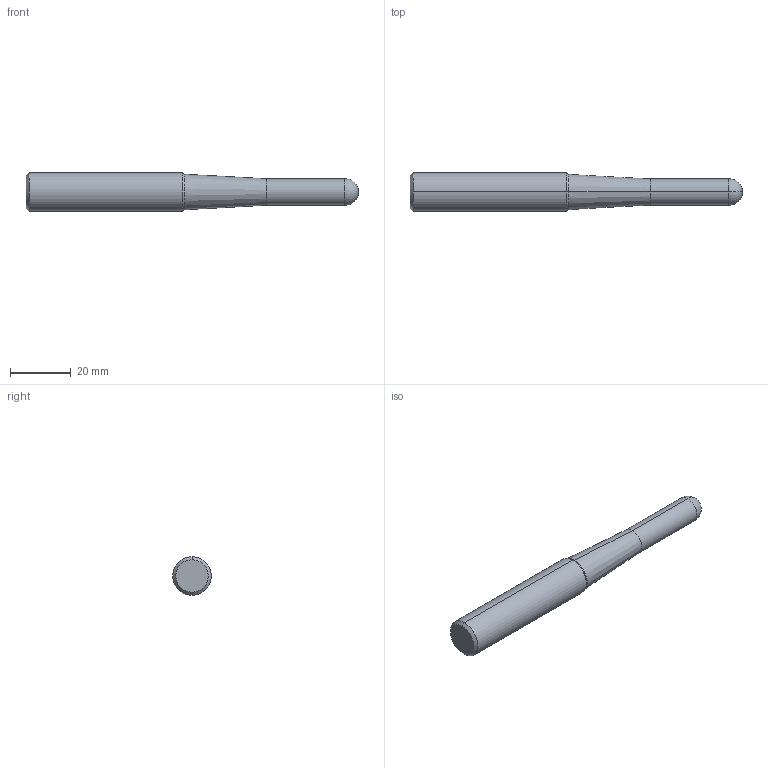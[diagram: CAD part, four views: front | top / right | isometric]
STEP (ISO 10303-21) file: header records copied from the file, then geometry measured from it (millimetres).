
FILE_DESCRIPTION (( 'STEP AP214' ), '1' );
FILE_NAME ('01-0225.STEP', '2021-02-10T00:30:48', ( 'USER' ), ( '' ), 'SwSTEP 2.0', 'SolidWorks 2018', '' );
FILE_SCHEMA (( 'AUTOMOTIVE_DESIGN' ));
Length unit declared in the file: millimetre
Products named in the file (2): 01-0225
Bounding box: 109.5 x 12.7 x 12.7 mm (x, y, z)
Volume: 10558.7 mm3; surface area: 3895.7 mm2
Topology: 1 solids, 1 shells, 14 faces, 26 edges, 14 vertices
Faces by surface type: cone 4, cylinder 4, torus 4, plane 2
Entity records: 397 total; most frequent: DIRECTION 76, CARTESIAN_POINT 56, ORIENTED_EDGE 52, AXIS2_PLACEMENT_3D 34, EDGE_CURVE 26, CIRCLE 18, VERTEX_POINT 14, ADVANCED_FACE 14
